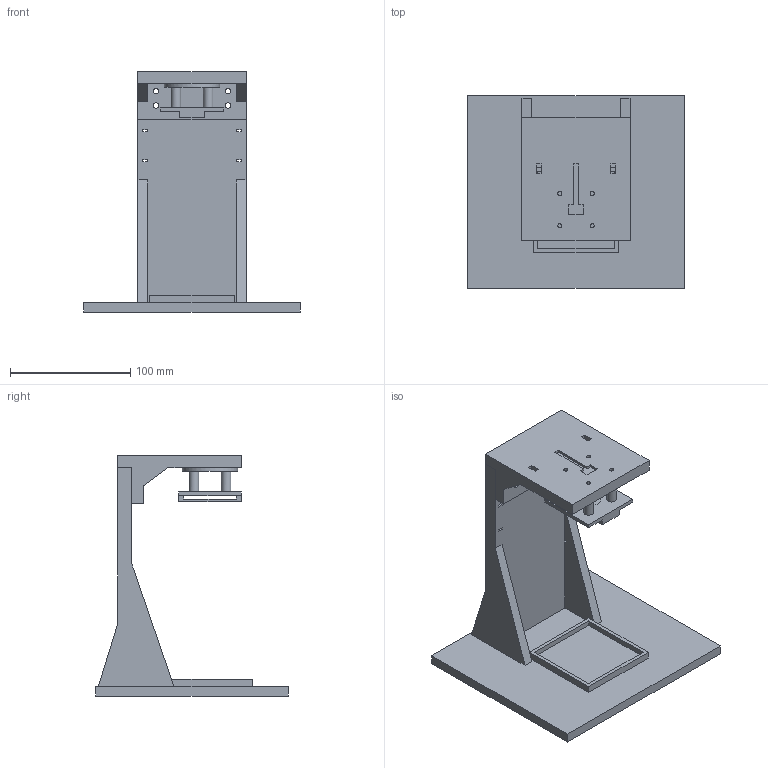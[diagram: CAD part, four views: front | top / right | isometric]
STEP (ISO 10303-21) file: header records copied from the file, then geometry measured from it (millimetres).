
FILE_DESCRIPTION(('Open CASCADE Model'),'2;1');
FILE_NAME('Open CASCADE Shape Model','2026-11-11T10:48:34',('Author'),( 'Open CASCADE'),'Open CASCADE STEP processor 7.9','Open CASCADE 7.9' ,'Unknown');
FILE_SCHEMA(('AUTOMOTIVE_DESIGN { 1 0 10303 214 1 1 1 1 }'));
Length unit declared in the file: millimetre
Products named in the file (4): three_printed_parts_only; 01_frame_base_upright_tray; 02_cantilever_vented_head_upper_sensor; 03_helper_cassette_lower_sensor_guard
Assembly tree (3 placements, depth 2):
  three_printed_parts_only
    01_frame_base_upright_tray
    02_cantilever_vented_head_upper_sensor
    03_helper_cassette_lower_sensor_guard
Bounding box: 180 x 160 x 200 mm (x, y, z)
Volume: 607402.9 mm3; surface area: 154568.1 mm2
Topology: 3 solids, 3 shells, 144 faces, 397 edges, 262 vertices
Faces by surface type: plane 121, cylinder 23
Full cylindrical faces by diameter (mm): 3.4 x8, 4.5 x8, 8 x4, 19.6 x1, 26 x1, 46 x1
Entity records: 9714 total; most frequent: CARTESIAN_POINT 1811, DIRECTION 1340, LINE 883, VECTOR 883, ORIENTED_EDGE 794, PCURVE 794, DEFINITIONAL_REPRESENTATION 794, EDGE_CURVE 397
